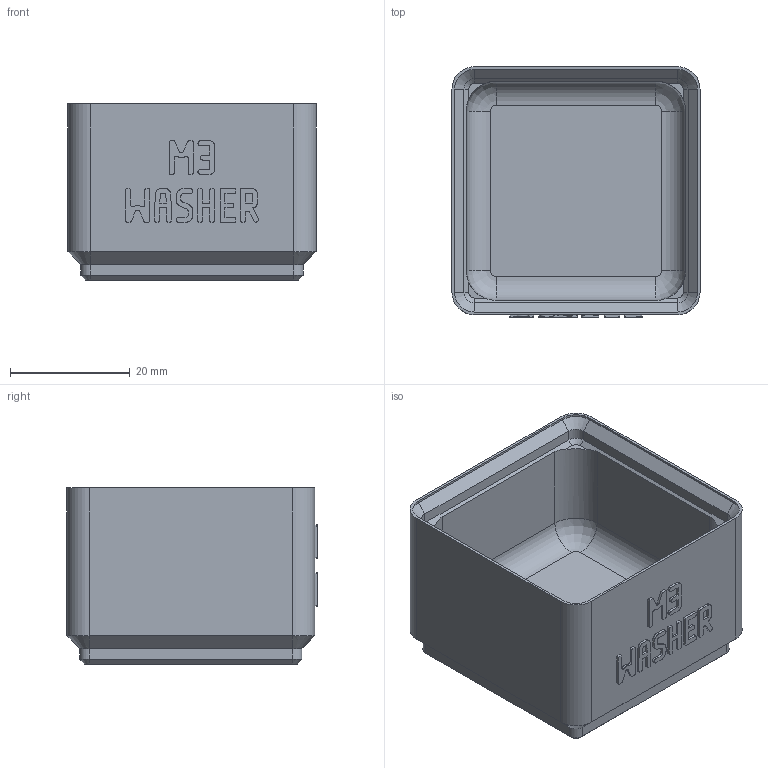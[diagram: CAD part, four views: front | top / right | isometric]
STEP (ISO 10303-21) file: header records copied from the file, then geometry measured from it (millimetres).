
FILE_DESCRIPTION(('Open CASCADE Model'),'2;1');
FILE_NAME('Open CASCADE Shape Model','2026-11-03T10:23:55',('Author'),( 'Open CASCADE'),'Open CASCADE STEP processor 8.0','build123d', 'Unknown');
FILE_SCHEMA(('AUTOMOTIVE_DESIGN { 1 0 10303 214 1 1 1 1 }'));
Products named in the file (1): COMPOUND
Bounding box: 41.5 x 41.9 x 29.5 mm (x, y, z)
Volume: 18948.3 mm3; surface area: 10664.7 mm2
Topology: 1 solids, 1 shells, 941 faces, 2728 edges, 1800 vertices
Faces by surface type: plane 897, cylinder 24, cone 16, revolution 4
Entity records: 64020 total; most frequent: CARTESIAN_POINT 12970, DIRECTION 8228, LINE 6192, VECTOR 6192, ORIENTED_EDGE 5456, PCURVE 5456, DEFINITIONAL_REPRESENTATION 5456, EDGE_CURVE 2728
